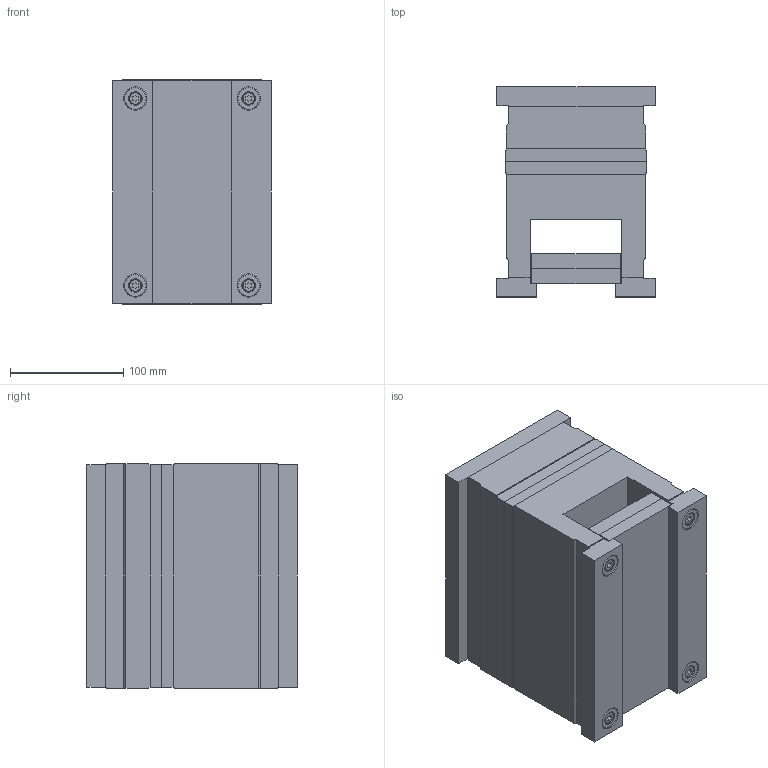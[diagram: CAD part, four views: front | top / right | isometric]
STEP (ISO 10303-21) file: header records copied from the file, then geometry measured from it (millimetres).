
FILE_DESCRIPTION (( 'STEP AP214' ), '1' );
FILE_NAME ('1253.STEP', '2002-07-10T07:48:10', ( 'Simcha Kilim' ), ( 'K. Plastics Engineering' ), 'SwSTEP 2.0', 'SolidWorks 2002025', '' );
FILE_SCHEMA (( 'AUTOMOTIVE_DESIGN' ));
Length unit declared in the file: millimetre
Products named in the file (12): 1253; ALMO (guide bush)_Ø11; ALMO (screw)_M6x50; ALMO (guide bush)_Ø10; ALMO (ejector return plate)_1253; ALMO (guide pin)_Ø10; ALMO (hot half)_1253; ALMO (guide pin)_Ø11; ALMO (key plate)_Ø10; ALMO (ejector plate)_1253; ALMO (ejector half)_1253; ALMO (screw)_M6x80
Assembly tree (28 placements, depth 2):
  1253
    ALMO (guide bush)_Ø11
    ALMO (guide bush)_Ø10  x3
    ALMO (guide pin)_Ø10  x3
    ALMO (key plate)_Ø10  x8
    ALMO (screw)_M6x50  x4
    ALMO (ejector half)_1253
    ALMO (screw)_M6x80  x4
    ALMO (ejector return plate)_1253
    ALMO (guide pin)_Ø11
    ALMO (ejector plate)_1253
    ALMO (hot half)_1253
Bounding box: 140 x 185.5 x 198 mm (x, y, z)
Volume: 3869455.5 mm3; surface area: 409465.5 mm2
Topology: 28 solids, 28 shells, 706 faces, 1496 edges, 924 vertices
Faces by surface type: cylinder 260, plane 254, cone 192
Entity records: 10477 total; most frequent: DIRECTION 1914, CARTESIAN_POINT 1683, ORIENTED_EDGE 1584, EDGE_CURVE 792, AXIS2_PLACEMENT_3D 729, VERTEX_POINT 498, LINE 456, VECTOR 456
